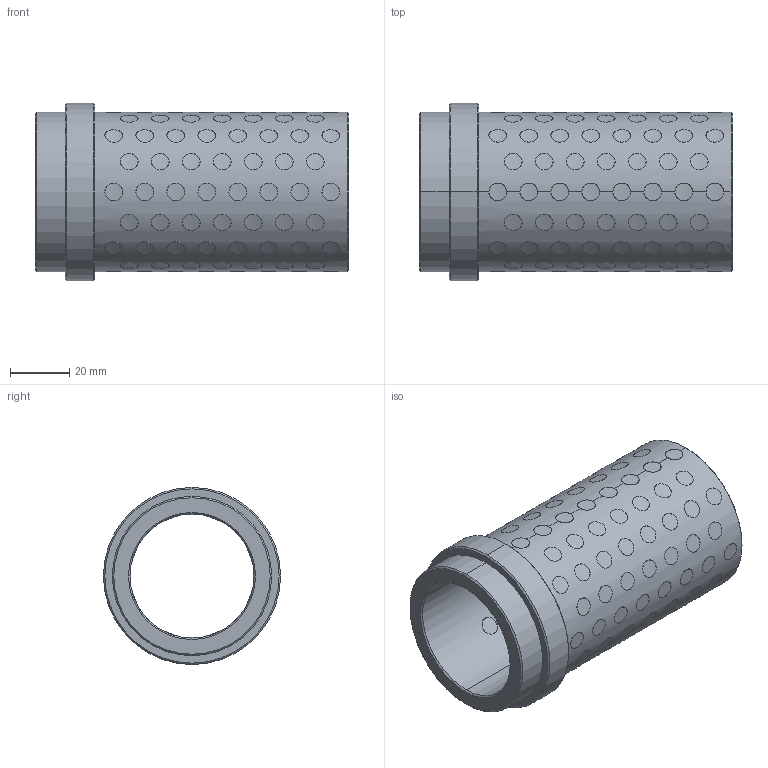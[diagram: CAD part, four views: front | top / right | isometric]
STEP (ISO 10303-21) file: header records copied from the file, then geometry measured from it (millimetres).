
FILE_DESCRIPTION((''),'2;1');
FILE_NAME('G31242096','2017-12-31T',('MANU'),(''),'PRO/ENGINEER BY PARAMETRIC TECHNOLOGY CORPORATION, 2012130','PRO/ENGINEER BY PARAMETRIC TECHNOLOGY CORPORATION, 2012130','');
FILE_SCHEMA(('CONFIG_CONTROL_DESIGN'));
Length unit declared in the file: millimetre
Products named in the file (1): G31242096
Bounding box: 106 x 60 x 60 mm (x, y, z)
Volume: 100817.2 mm3; surface area: 61778.1 mm2
Topology: 121 solids, 121 shells, 744 faces, 1584 edges, 1052 vertices
Faces by surface type: cylinder 728, cone 12, plane 4
Entity records: 38368 total; most frequent: CARTESIAN_POINT 23914, ORIENTED_EDGE 3168, DIRECTION 2076, EDGE_CURVE 1584, VERTEX_POINT 1052, B_SPLINE_CURVE_WITH_KNOTS 1024, EDGE_LOOP 956, AXIS2_PLACEMENT_3D 772
